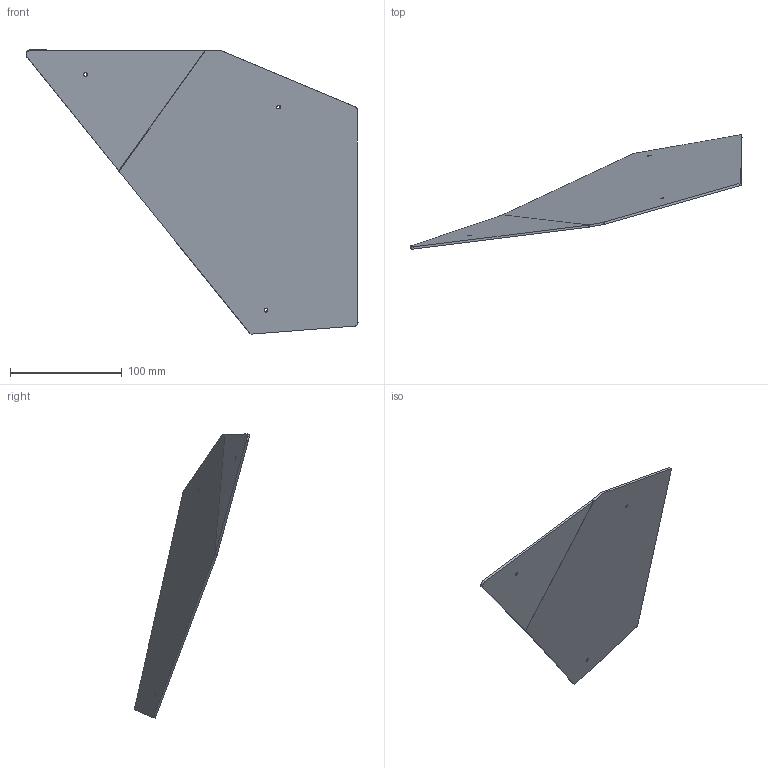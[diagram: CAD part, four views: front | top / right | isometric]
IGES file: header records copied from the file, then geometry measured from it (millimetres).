
Start section: START RECORD GO HERE.
Global section: file name: MS_04008 (Paroi pare feu - side).igs; native system: DASSAULT SYSTEMES CATIA Version 5-6 Release 2023 - www.3ds.com; preprocessor: V5-6R2023_5.33.5.0.08-23-2024.22.00; author: basti; organization: BASTIEN; date: 20241121.203614; units: millimetre
Bounding box: 296.64 x 102.44 x 253.81 mm (x, y, z)
Surface area: 98799.3 mm2 (no closed solid volume)
Topology: 0 solids, 0 shells, 35 faces, 185 edges, 182 vertices
Faces by surface type: revolution 14, plane 10, bspline 8, extrusion 3
